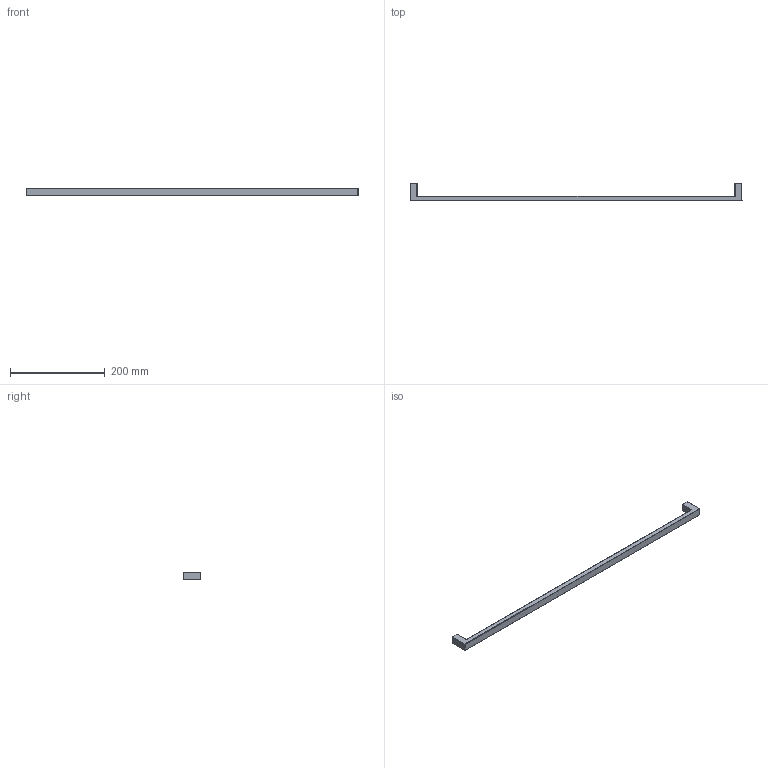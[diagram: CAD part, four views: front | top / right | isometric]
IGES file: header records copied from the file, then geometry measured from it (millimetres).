
Start section: Data from Parasolid IGES Translator 15.0.47, Copyright(c) 2006 Siemens P LM Software. All Rights Reserved.
Global section: file name: 9113257.igs; native system:  By UGS Corp.; preprocessor: XPlus GENERIC/IGES 3.0; author: Noname; organization: Noname; date: 20140122.181732; units: millimetre
Bounding box: 699 x 37.01 x 16.01 mm (x, y, z)
Surface area: 39561.6 mm2 (no closed solid volume)
Topology: 0 solids, 0 shells, 34 faces, 164 edges, 162 vertices
Faces by surface type: revolution 18, extrusion 16
